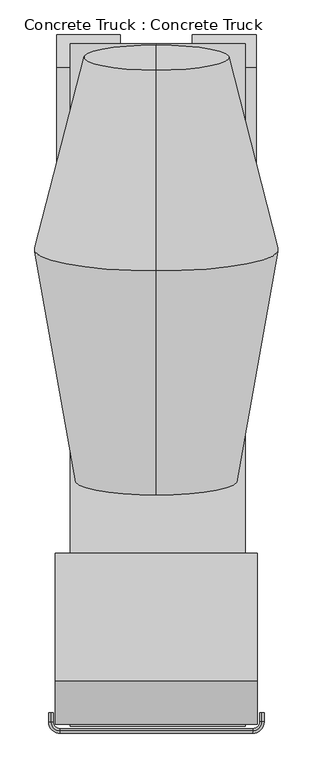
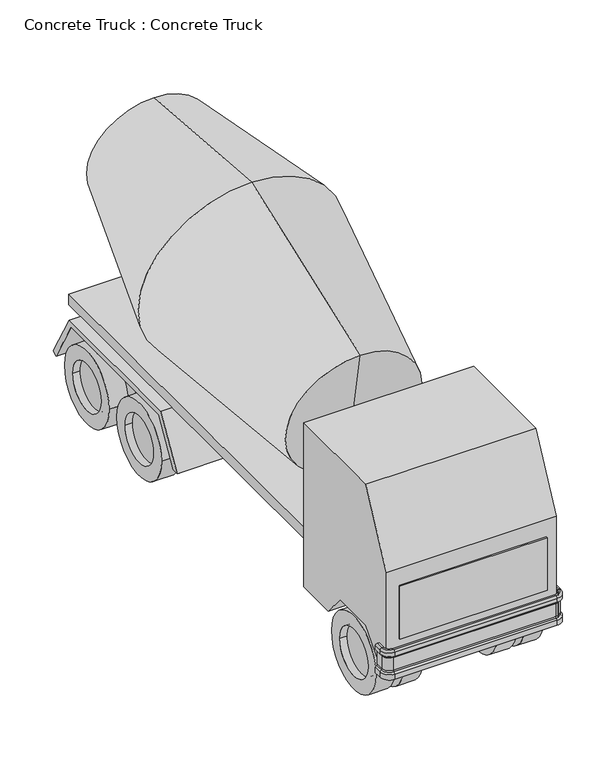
"""IFC4 building model written with IfcOpenShell, lengths in millimetres: geographic element geometry, Concrete Truck : Concrete Truck."""

from ifc_helpers import new_model, si_unit, point, frame, frame_2d, origin, place, context, project, spatial, polyline, circle_curve, ellipse_curve, trimmed, segment, composite_curve, outline, extrude, source, transform, mapped, element, save
from ifc_brep_helpers import plane_surface, cylinder_surface, revolved_surface, advanced_brep


def concrete_truck_concrete_truck_86626955(model_context):
    return source(origin(), model_context, "Body", "SolidModel", [
        extrude(outline(composite_curve([segment(trimmed(circle_curve(frame_2d((-3129.2190592, 514.3449875)), 330.2), [point((-2799.0190592, 514.3449875))], [point((-3459.4190592, 514.3449875))], False, "CARTESIAN"), True, "CONTINUOUS"), segment(trimmed(circle_curve(frame_2d((-3129.2190592, 514.3449875)), 330.2), [point((-3459.4190592, 514.3449875))], [point((-2799.0190592, 514.3449875))], False, "CARTESIAN"), True, "CONTINUOUS")], self_intersect=False)), frame((829.1634615, 0.0, 0.0), z_axis=(1.0, 0.0, 0.0), x_axis=(0.0, 1.0, 0.0)), (0.0, 0.0, 1.0), 172.4421875),
        extrude(outline(composite_curve([segment(trimmed(circle_curve(frame_2d((1874.5809408, 514.3449875)), 330.2), [point((2204.7809408, 514.3449875))], [point((1544.3809408, 514.3449875))], False, "CARTESIAN"), True, "CONTINUOUS"), segment(trimmed(circle_curve(frame_2d((1874.5809408, 514.3449875)), 330.2), [point((1544.3809408, 514.3449875))], [point((2204.7809408, 514.3449875))], False, "CARTESIAN"), True, "CONTINUOUS")], self_intersect=False)), frame((829.1634615, 0.0, 0.0), z_axis=(1.0, 0.0, 0.0), x_axis=(0.0, 1.0, 0.0)), (0.0, 0.0, 1.0), 172.4421875),
        extrude(outline(composite_curve([segment(trimmed(circle_curve(frame_2d((3091.9615385, 514.35)), 330.2), [point((3422.1615385, 514.35))], [point((2761.7615385, 514.35))], False, "CARTESIAN"), True, "CONTINUOUS"), segment(trimmed(circle_curve(frame_2d((3091.9615385, 514.35)), 330.2), [point((2761.7615385, 514.35))], [point((3422.1615385, 514.35))], False, "CARTESIAN"), True, "CONTINUOUS")], self_intersect=False)), frame((829.1634615, 0.0, 0.0), z_axis=(1.0, 0.0, 0.0), x_axis=(0.0, 1.0, 0.0)), (0.0, 0.0, 1.0), 172.4421875),
        extrude(outline(composite_curve([segment(trimmed(circle_curve(frame_2d((-3131.0384615, 514.35)), 330.2), [point((-2800.8384615, 514.35))], [point((-3461.2384615, 514.35))], False, "CARTESIAN"), True, "CONTINUOUS"), segment(trimmed(circle_curve(frame_2d((-3131.0384615, 514.35)), 330.2), [point((-3461.2384615, 514.35))], [point((-2800.8384615, 514.35))], False, "CARTESIAN"), True, "CONTINUOUS")], self_intersect=False)), frame((-1072.859976, 0.0, 0.0), z_axis=(1.0, 0.0, 0.0), x_axis=(0.0, 1.0, 0.0)), (0.0, 0.0, 1.0), 155.7734375),
        extrude(outline(composite_curve([segment(trimmed(circle_curve(frame_2d((1872.7615385, 514.35)), 330.2), [point((2202.9615385, 514.35))], [point((1542.5615385, 514.35))], False, "CARTESIAN"), True, "CONTINUOUS"), segment(trimmed(circle_curve(frame_2d((1872.7615385, 514.35)), 330.2), [point((1542.5615385, 514.35))], [point((2202.9615385, 514.35))], False, "CARTESIAN"), True, "CONTINUOUS")], self_intersect=False)), frame((-1072.859976, 0.0, 0.0), z_axis=(1.0, 0.0, 0.0), x_axis=(0.0, 1.0, 0.0)), (0.0, 0.0, 1.0), 155.7734375),
        extrude(outline(composite_curve([segment(trimmed(circle_curve(frame_2d((3091.9615385, 514.35)), 330.2), [point((3422.1615385, 514.35))], [point((2761.7615385, 514.35))], False, "CARTESIAN"), True, "CONTINUOUS"), segment(trimmed(circle_curve(frame_2d((3091.9615385, 514.35)), 330.2), [point((2761.7615385, 514.35))], [point((3422.1615385, 514.35))], False, "CARTESIAN"), True, "CONTINUOUS")], self_intersect=False)), frame((-1072.859976, 0.0, 0.0), z_axis=(1.0, 0.0, 0.0), x_axis=(0.0, 1.0, 0.0)), (0.0, 0.0, 1.0), 155.7734375),
        extrude(outline(composite_curve([segment(trimmed(circle_curve(frame_2d((3091.9615385, 514.35)), 520.7), [point((3612.6615385, 514.35))], [point((2571.2615385, 514.35))], False, "CARTESIAN"), True, "CONTINUOUS"), segment(trimmed(circle_curve(frame_2d((3091.9615385, 514.35)), 520.7), [point((2571.2615385, 514.35))], [point((3612.6615385, 514.35))], False, "CARTESIAN"), True, "CONTINUOUS")], self_intersect=False)), frame((-805.9615385, 0.0, 0.0), z_axis=(1.0, 0.0, 0.0), x_axis=(0.0, 1.0, 0.0)), (0.0, 0.0, 1.0), 254.0),
        extrude(outline(composite_curve([segment(trimmed(circle_curve(frame_2d((-3139.2915601, 511.4267776)), 520.7), [point((-2618.5915601, 511.4267776))], [point((-3659.9915601, 511.4267776))], False, "CARTESIAN"), True, "CONTINUOUS"), segment(trimmed(circle_curve(frame_2d((-3139.2915601, 511.4267776)), 520.7), [point((-3659.9915601, 511.4267776))], [point((-2618.5915601, 511.4267776))], False, "CARTESIAN"), True, "CONTINUOUS")], self_intersect=False)), frame((-805.9615385, 0.0, 0.0), z_axis=(1.0, 0.0, 0.0), x_axis=(0.0, 1.0, 0.0)), (0.0, 0.0, 1.0), 254.0),
        extrude(outline(composite_curve([segment(trimmed(circle_curve(frame_2d((1872.7615385, 514.35)), 520.7), [point((2393.4615385, 514.35))], [point((1352.0615385, 514.35))], False, "CARTESIAN"), True, "CONTINUOUS"), segment(trimmed(circle_curve(frame_2d((1872.7615385, 514.35)), 520.7), [point((1352.0615385, 514.35))], [point((2393.4615385, 514.35))], False, "CARTESIAN"), True, "CONTINUOUS")], self_intersect=False)), frame((-805.9615385, 0.0, 0.0), z_axis=(1.0, 0.0, 0.0), x_axis=(0.0, 1.0, 0.0)), (0.0, 0.0, 1.0), 254.0),
        extrude(outline(composite_curve([segment(trimmed(circle_curve(frame_2d((3091.9615385, 514.35)), 520.7), [point((3612.6615385, 514.35))], [point((2571.2615385, 514.35))], False, "CARTESIAN"), True, "CONTINUOUS"), segment(trimmed(circle_curve(frame_2d((3091.9615385, 514.35)), 520.7), [point((2571.2615385, 514.35))], [point((3612.6615385, 514.35))], False, "CARTESIAN"), True, "CONTINUOUS")], self_intersect=False)), frame((464.0384615, 0.0, 0.0), z_axis=(1.0, 0.0, 0.0), x_axis=(0.0, 1.0, 0.0)), (0.0, 0.0, 1.0), 254.0),
        extrude(outline(composite_curve([segment(trimmed(circle_curve(frame_2d((-3131.0384615, 514.35)), 520.7), [point((-2610.3384615, 514.35))], [point((-3651.7384615, 514.35))], False, "CARTESIAN"), True, "CONTINUOUS"), segment(trimmed(circle_curve(frame_2d((-3131.0384615, 514.35)), 520.7), [point((-3651.7384615, 514.35))], [point((-2610.3384615, 514.35))], False, "CARTESIAN"), True, "CONTINUOUS")], self_intersect=False)), frame((464.0384615, 0.0, 0.0), z_axis=(1.0, 0.0, 0.0), x_axis=(0.0, 1.0, 0.0)), (0.0, 0.0, 1.0), 254.0),
        extrude(outline(composite_curve([segment(trimmed(circle_curve(frame_2d((1872.7615385, 514.35)), 520.7), [point((2393.4615385, 514.35))], [point((1352.0615385, 514.35))], False, "CARTESIAN"), True, "CONTINUOUS"), segment(trimmed(circle_curve(frame_2d((1872.7615385, 514.35)), 520.7), [point((1352.0615385, 514.35))], [point((2393.4615385, 514.35))], False, "CARTESIAN"), True, "CONTINUOUS")], self_intersect=False)), frame((464.0384615, 0.0, 0.0), z_axis=(1.0, 0.0, 0.0), x_axis=(0.0, 1.0, 0.0)), (0.0, 0.0, 1.0), 254.0),
        extrude(outline(composite_curve([segment(trimmed(circle_curve(frame_2d((3091.9615385, 514.35)), 520.7), [point((3612.6615385, 514.35))], [point((2571.2615385, 514.35))], False, "CARTESIAN"), True, "CONTINUOUS"), segment(trimmed(circle_curve(frame_2d((3091.9615385, 514.35)), 520.7), [point((2571.2615385, 514.35))], [point((3612.6615385, 514.35))], False, "CARTESIAN"), True, "CONTINUOUS")], self_intersect=False), holes=[composite_curve([segment(trimmed(circle_curve(frame_2d((3091.9615385, 514.35)), 330.2), [point((3422.1615385, 514.35))], [point((2761.7615385, 514.35))], True, "CARTESIAN"), True, "CONTINUOUS"), segment(trimmed(circle_curve(frame_2d((3091.9615385, 514.35)), 330.2), [point((2761.7615385, 514.35))], [point((3422.1615385, 514.35))], True, "CARTESIAN"), True, "CONTINUOUS")], self_intersect=False)]), frame((-1171.0865385, 0.0, 0.0), z_axis=(1.0, 0.0, 0.0), x_axis=(0.0, 1.0, 0.0)), (0.0, 0.0, 1.0), 254.0),
        extrude(outline(composite_curve([segment(trimmed(circle_curve(frame_2d((-3131.0384615, 514.35)), 520.7), [point((-2610.3384615, 514.35))], [point((-3651.7384615, 514.35))], False, "CARTESIAN"), True, "CONTINUOUS"), segment(trimmed(circle_curve(frame_2d((-3131.0384615, 514.35)), 520.7), [point((-3651.7384615, 514.35))], [point((-2610.3384615, 514.35))], False, "CARTESIAN"), True, "CONTINUOUS")], self_intersect=False), holes=[composite_curve([segment(trimmed(circle_curve(frame_2d((-3131.0384615, 514.35)), 330.2), [point((-2800.8384615, 514.35))], [point((-3461.2384615, 514.35))], True, "CARTESIAN"), True, "CONTINUOUS"), segment(trimmed(circle_curve(frame_2d((-3131.0384615, 514.35)), 330.2), [point((-3461.2384615, 514.35))], [point((-2800.8384615, 514.35))], True, "CARTESIAN"), True, "CONTINUOUS")], self_intersect=False)]), frame((-1171.0865385, 0.0, 0.0), z_axis=(1.0, 0.0, 0.0), x_axis=(0.0, 1.0, 0.0)), (0.0, 0.0, 1.0), 254.0),
        extrude(outline(composite_curve([segment(trimmed(circle_curve(frame_2d((1872.7615385, 514.35)), 520.7), [point((2393.4615385, 514.35))], [point((1352.0615385, 514.35))], False, "CARTESIAN"), True, "CONTINUOUS"), segment(trimmed(circle_curve(frame_2d((1872.7615385, 514.35)), 520.7), [point((1352.0615385, 514.35))], [point((2393.4615385, 514.35))], False, "CARTESIAN"), True, "CONTINUOUS")], self_intersect=False), holes=[composite_curve([segment(trimmed(circle_curve(frame_2d((1872.7615385, 514.35)), 330.2), [point((2202.9615385, 514.35))], [point((1542.5615385, 514.35))], True, "CARTESIAN"), True, "CONTINUOUS"), segment(trimmed(circle_curve(frame_2d((1872.7615385, 514.35)), 330.2), [point((1542.5615385, 514.35))], [point((2202.9615385, 514.35))], True, "CARTESIAN"), True, "CONTINUOUS")], self_intersect=False)]), frame((-1171.0865385, 0.0, 0.0), z_axis=(1.0, 0.0, 0.0), x_axis=(0.0, 1.0, 0.0)), (0.0, 0.0, 1.0), 254.0),
        advanced_brep(
        [(-1212.3615385, -3791.4384615, 661.0144121), (-1263.1615385, -3791.4384615, 661.0144121), (-1263.1615385, -3791.4384615, 734.1328754), (-1243.6602579, -3791.4384615, 753.634156), (-1236.2207701, -3791.4384615, 771.5946682), (-1236.2207701, -3791.4384615, 953.7526192), (-1243.6602579, -3791.4384615, 971.7131315), (-1263.1615385, -3791.4384615, 991.2144121), (-1263.1615385, -3791.4384615, 1042.0144121), (-1237.7615385, -3791.4384615, 1067.4144121), (-1212.3615385, -3791.4384615, 1067.4144121), (-1212.3615385, -3893.0384615, 661.0144121), (-1263.1615385, -3893.0384615, 661.0144121), (-1263.1615385, -3893.0384615, 734.1328754), (-1243.6602579, -3893.0384615, 753.634156), (-1236.2207701, -3893.0384615, 771.5946682), (-1236.2207701, -3893.0384615, 953.7526192), (-1243.6602579, -3893.0384615, 971.7131315), (-1263.1615385, -3893.0384615, 991.2144121), (-1263.1615385, -3893.0384615, 1042.0144121), (-1237.7615385, -3893.0384615, 1067.4144121), (-1212.3615385, -3893.0384615, 1067.4144121), (-1136.1615385, -4020.0384615, 661.0144121), (-1136.1615385, -3969.2384615, 661.0144121), (-1136.1615385, -4020.0384615, 734.1328754), (-1136.1615385, -4000.5371809, 753.634156), (-1136.1615385, -3993.0976932, 771.5946682), (-1136.1615385, -3993.0976932, 953.7526192), (-1136.1615385, -4000.5371809, 971.7131315), (-1136.1615385, -4020.0384615, 991.2144121), (-1136.1615385, -4020.0384615, 1042.0144121), (-1136.1615385, -3994.6384615, 1067.4144121), (-1136.1615385, -3969.2384615, 1067.4144121), (1048.2384615, -3969.2384615, 661.0144121), (1048.2384615, -4020.0384615, 661.0144121), (1048.2384615, -4020.0384615, 734.1328754), (1048.2384615, -4000.5371809, 753.634156), (1048.2384615, -3993.0976932, 771.5946682), (1048.2384615, -3993.0976932, 953.7526192), (1048.2384615, -4000.5371809, 971.7131315), (1048.2384615, -4020.0384615, 991.2144121), (1048.2384615, -4020.0384615, 1042.0144121), (1048.2384615, -3994.6384615, 1067.4144121), (1048.2384615, -3969.2384615, 1067.4144121), (1175.2384615, -3893.0384615, 661.0144121), (1124.4384615, -3893.0384615, 661.0144121), (1175.2384615, -3893.0384615, 734.1328754), (1155.7371809, -3893.0384615, 753.634156), (1148.2976932, -3893.0384615, 771.5946682), (1148.2976932, -3893.0384615, 953.7526192), (1155.7371809, -3893.0384615, 971.7131315), (1175.2384615, -3893.0384615, 991.2144121), (1175.2384615, -3893.0384615, 1042.0144121), (1149.8384615, -3893.0384615, 1067.4144121), (1124.4384615, -3893.0384615, 1067.4144121), (1124.4384615, -3791.4384615, 661.0144121), (1124.4384615, -3791.4384615, 1067.4144121), (1149.8384615, -3791.4384615, 1067.4144121), (1175.2384615, -3791.4384615, 1042.0144121), (1175.2384615, -3791.4384615, 991.2144121), (1155.7371809, -3791.4384615, 971.7131315), (1148.2976932, -3791.4384615, 953.7526192), (1148.2976932, -3791.4384615, 771.5946682), (1155.7371809, -3791.4384615, 753.634156), (1175.2384615, -3791.4384615, 734.1328754), (1175.2384615, -3791.4384615, 661.0144121)],
        [
            (0, 1),
            (1, 2),
            (2, 3),
            (3, 4, circle_curve(frame((-1261.6207701, -3791.4384615, 771.5946682), z_axis=(0.0, -1.0, 0.0), x_axis=(1.0, 0.0, 0.0)), 25.4)),
            (4, 5),
            (5, 6, circle_curve(frame((-1261.6207701, -3791.4384615, 953.7526192), z_axis=(0.0, -1.0, 0.0), x_axis=(1.0, 0.0, 0.0)), 25.4)),
            (6, 7),
            (7, 8),
            (8, 9, circle_curve(frame((-1237.7615385, -3791.4384615, 1042.0144121), z_axis=(0.0, 1.0, 0.0), x_axis=(1.0, 0.0, 0.0)), 25.4)),
            (9, 10),
            (10, 0),
            (0, 11),
            (11, 12),
            (12, 1),
            (12, 13),
            (13, 2),
            (13, 14),
            (14, 3),
            (14, 15, circle_curve(frame((-1261.6207701, -3893.0384615, 771.5946682), z_axis=(0.0, -1.0, 0.0), x_axis=(1.0, 0.0, 0.0)), 25.4)),
            (15, 4),
            (15, 16),
            (16, 5),
            (16, 17, circle_curve(frame((-1261.6207701, -3893.0384615, 953.7526192), z_axis=(0.0, -1.0, 0.0), x_axis=(1.0, 0.0, 0.0)), 25.4)),
            (17, 6),
            (17, 18),
            (18, 7),
            (18, 19),
            (19, 8),
            (19, 20, circle_curve(frame((-1237.7615385, -3893.0384615, 1042.0144121), z_axis=(0.0, 1.0, 0.0), x_axis=(1.0, 0.0, 0.0)), 25.4)),
            (20, 9),
            (20, 21),
            (21, 10),
            (21, 11),
            (22, 12, circle_curve(frame((-1136.1615385, -3893.0384615, 661.0144121), z_axis=(0.0, 0.0, -1.0), x_axis=(-1.0, 0.0, 0.0)), 127.0)),
            (11, 23, circle_curve(frame((-1136.1615385, -3893.0384615, 661.0144121), z_axis=(0.0, 0.0, 1.0), x_axis=(-1.0, 0.0, 0.0)), 76.2)),
            (23, 22),
            (24, 13, circle_curve(frame((-1136.1615385, -3893.0384615, 734.1328754), z_axis=(0.0, 0.0, -1.0), x_axis=(-1.0, 0.0, 0.0)), 127.0)),
            (22, 24),
            (25, 14, circle_curve(frame((-1136.1615385, -3893.0384615, 753.634156), z_axis=(0.0, 0.0, -1.0), x_axis=(-1.0, 0.0, 0.0)), 107.4987194)),
            (24, 25),
            (26, 15, circle_curve(frame((-1136.1615385, -3893.0384615, 771.5946682), z_axis=(0.0, 0.0, -1.0), x_axis=(-1.0, 0.0, 0.0)), 100.0592316)),
            (25, 26, circle_curve(frame((-1136.1615385, -4018.4976932, 771.5946682), z_axis=(1.0, 0.0, 0.0), x_axis=(0.0, 1.0, 0.0)), 25.4)),
            (27, 16, circle_curve(frame((-1136.1615385, -3893.0384615, 953.7526192), z_axis=(0.0, 0.0, -1.0), x_axis=(-1.0, 0.0, 0.0)), 100.0592316)),
            (26, 27),
            (28, 17, circle_curve(frame((-1136.1615385, -3893.0384615, 971.7131315), z_axis=(0.0, 0.0, -1.0), x_axis=(-1.0, 0.0, 0.0)), 107.4987194)),
            (27, 28, circle_curve(frame((-1136.1615385, -4018.4976932, 953.7526192), z_axis=(1.0, 0.0, 0.0), x_axis=(0.0, 1.0, 0.0)), 25.4)),
            (29, 18, circle_curve(frame((-1136.1615385, -3893.0384615, 991.2144121), z_axis=(0.0, 0.0, -1.0), x_axis=(-1.0, 0.0, 0.0)), 127.0)),
            (28, 29),
            (30, 19, circle_curve(frame((-1136.1615385, -3893.0384615, 1042.0144121), z_axis=(0.0, 0.0, -1.0), x_axis=(-1.0, 0.0, 0.0)), 127.0)),
            (29, 30),
            (31, 20, circle_curve(frame((-1136.1615385, -3893.0384615, 1067.4144121), z_axis=(0.0, 0.0, -1.0), x_axis=(-1.0, 0.0, 0.0)), 101.6)),
            (30, 31, circle_curve(frame((-1136.1615385, -3994.6384615, 1042.0144121), z_axis=(-1.0, 0.0, 0.0), x_axis=(0.0, 1.0, 0.0)), 25.4)),
            (32, 21, circle_curve(frame((-1136.1615385, -3893.0384615, 1067.4144121), z_axis=(0.0, 0.0, -1.0), x_axis=(-1.0, 0.0, 0.0)), 76.2)),
            (31, 32),
            (32, 23),
            (23, 33),
            (33, 34),
            (34, 22),
            (34, 35),
            (35, 24),
            (35, 36),
            (36, 25),
            (36, 37, circle_curve(frame((1048.2384615, -4018.4976932, 771.5946682), z_axis=(1.0, 0.0, 0.0), x_axis=(0.0, 1.0, 0.0)), 25.4)),
            (37, 26),
            (37, 38),
            (38, 27),
            (38, 39, circle_curve(frame((1048.2384615, -4018.4976932, 953.7526192), z_axis=(1.0, 0.0, 0.0), x_axis=(0.0, 1.0, 0.0)), 25.4)),
            (39, 28),
            (39, 40),
            (40, 29),
            (40, 41),
            (41, 30),
            (41, 42, circle_curve(frame((1048.2384615, -3994.6384615, 1042.0144121), z_axis=(-1.0, 0.0, 0.0), x_axis=(0.0, 1.0, 0.0)), 25.4)),
            (42, 31),
            (42, 43),
            (43, 32),
            (43, 33),
            (44, 34, circle_curve(frame((1048.2384615, -3893.0384615, 661.0144121), z_axis=(0.0, 0.0, -1.0), x_axis=(0.0, -1.0, 0.0)), 127.0)),
            (33, 45, circle_curve(frame((1048.2384615, -3893.0384615, 661.0144121), z_axis=(0.0, 0.0, 1.0), x_axis=(0.0, -1.0, 0.0)), 76.2)),
            (45, 44),
            (46, 35, circle_curve(frame((1048.2384615, -3893.0384615, 734.1328754), z_axis=(0.0, 0.0, -1.0), x_axis=(0.0, -1.0, 0.0)), 127.0)),
            (44, 46),
            (47, 36, circle_curve(frame((1048.2384615, -3893.0384615, 753.634156), z_axis=(0.0, 0.0, -1.0), x_axis=(0.0, -1.0, 0.0)), 107.4987194)),
            (46, 47),
            (48, 37, circle_curve(frame((1048.2384615, -3893.0384615, 771.5946682), z_axis=(0.0, 0.0, -1.0), x_axis=(0.0, -1.0, 0.0)), 100.0592316)),
            (47, 48, circle_curve(frame((1173.6976932, -3893.0384615, 771.5946682), z_axis=(0.0, 1.0, 0.0), x_axis=(-1.0, 0.0, 0.0)), 25.4)),
            (49, 38, circle_curve(frame((1048.2384615, -3893.0384615, 953.7526192), z_axis=(0.0, 0.0, -1.0), x_axis=(0.0, -1.0, 0.0)), 100.0592316)),
            (48, 49),
            (50, 39, circle_curve(frame((1048.2384615, -3893.0384615, 971.7131315), z_axis=(0.0, 0.0, -1.0), x_axis=(0.0, -1.0, 0.0)), 107.4987194)),
            (49, 50, circle_curve(frame((1173.6976932, -3893.0384615, 953.7526192), z_axis=(0.0, 1.0, 0.0), x_axis=(-1.0, 0.0, 0.0)), 25.4)),
            (51, 40, circle_curve(frame((1048.2384615, -3893.0384615, 991.2144121), z_axis=(0.0, 0.0, -1.0), x_axis=(0.0, -1.0, 0.0)), 127.0)),
            (50, 51),
            (52, 41, circle_curve(frame((1048.2384615, -3893.0384615, 1042.0144121), z_axis=(0.0, 0.0, -1.0), x_axis=(0.0, -1.0, 0.0)), 127.0)),
            (51, 52),
            (53, 42, circle_curve(frame((1048.2384615, -3893.0384615, 1067.4144121), z_axis=(0.0, 0.0, -1.0), x_axis=(0.0, -1.0, 0.0)), 101.6)),
            (52, 53, circle_curve(frame((1149.8384615, -3893.0384615, 1042.0144121), z_axis=(0.0, -1.0, 0.0), x_axis=(-1.0, 0.0, 0.0)), 25.4)),
            (54, 43, circle_curve(frame((1048.2384615, -3893.0384615, 1067.4144121), z_axis=(0.0, 0.0, -1.0), x_axis=(0.0, -1.0, 0.0)), 76.2)),
            (53, 54),
            (54, 45),
            (55, 56),
            (56, 57),
            (57, 58, circle_curve(frame((1149.8384615, -3791.4384615, 1042.0144121), z_axis=(0.0, 1.0, 0.0), x_axis=(-1.0, 0.0, 0.0)), 25.4)),
            (58, 59),
            (59, 60),
            (60, 61, circle_curve(frame((1173.6976932, -3791.4384615, 953.7526192), z_axis=(0.0, -1.0, 0.0), x_axis=(-1.0, 0.0, 0.0)), 25.4)),
            (61, 62),
            (62, 63, circle_curve(frame((1173.6976932, -3791.4384615, 771.5946682), z_axis=(0.0, -1.0, 0.0), x_axis=(-1.0, 0.0, 0.0)), 25.4)),
            (63, 64),
            (64, 65),
            (65, 55),
            (45, 55),
            (65, 44),
            (64, 46),
            (63, 47),
            (62, 48),
            (61, 49),
            (60, 50),
            (59, 51),
            (58, 52),
            (57, 53),
            (56, 54),
        ],
        [
            plane_surface(frame((-2331.7840944, -3791.4384615, 0.0), z_axis=(0.0, 1.0, 0.0), x_axis=(0.0, 0.0, -1.0))),
            plane_surface(frame((-1212.3615385, -3791.4384615, 661.0144121), z_axis=(0.0, 0.0, -1.0), x_axis=(0.0, -1.0, 0.0))),
            plane_surface(frame((-1263.1615385, -3791.4384615, 661.0144121), z_axis=(-1.0, 0.0, 0.0), x_axis=(0.0, -1.0, 0.0))),
            plane_surface(frame((-1263.1615385, -3791.4384615, 734.1328754), z_axis=(-0.7071067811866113, 0.0, 0.7071067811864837), x_axis=(0.0, -1.0, 0.0))),
            revolved_surface(polyline([(-1236.2207701, -3893.0384615, 771.5946682), (-1236.2207701, -3791.4384615, 771.5946682)]), (-1261.6207701, -3791.4384615, 771.5946682), (0.0, -1.0, 0.0)),
            plane_surface(frame((-1236.2207701, -3791.4384615, 771.5946682), z_axis=(-1.0, 0.0, 0.0), x_axis=(0.0, -1.0, 0.0))),
            revolved_surface(polyline([(-1236.2207701, -3893.0384615, 953.7526192), (-1236.2207701, -3791.4384615, 953.7526192)]), (-1261.6207701, -3791.4384615, 953.7526192), (0.0, -1.0, 0.0)),
            plane_surface(frame((-1243.6602579, -3791.4384615, 971.7131315), z_axis=(-0.7071067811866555, 0.0, -0.7071067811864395), x_axis=(0.0, -1.0, 0.0))),
            plane_surface(frame((-1263.1615385, -3791.4384615, 991.2144121), z_axis=(-1.0, 0.0, 0.0), x_axis=(0.0, -1.0, 0.0))),
            cylinder_surface(frame((-1237.7615385, -3791.4384615, 1042.0144121), z_axis=(0.0, 1.0, 0.0), x_axis=(1.0, 0.0, 0.0)), 25.4),
            plane_surface(frame((-1237.7615385, -3791.4384615, 1067.4144121), z_axis=(0.0, 0.0, 1.0), x_axis=(0.0, -1.0, 0.0))),
            plane_surface(frame((-1212.3615385, -3791.4384615, 1067.4144121), z_axis=(1.0, 0.0, 0.0), x_axis=(0.0, -1.0, 0.0))),
            plane_surface(frame((-1136.1615385, -3893.0384615, 661.0144121), z_axis=(0.0, 0.0, -1.0), x_axis=(-1.0, 0.0, 0.0))),
            cylinder_surface(frame((-1136.1615385, -3893.0384615, 0.0), z_axis=(0.0, 0.0, 1.0), x_axis=(-1.0, 0.0, 0.0)), 127.0),
            revolved_surface(polyline([(-1263.1615385, -3893.0384615, 734.1328754), (-1243.6602579, -3893.0384615, 753.634156)]), (-1136.1615385, -3893.0384615, 0.0), (0.0, 0.0, 1.0)),
            revolved_surface(trimmed(ellipse_curve(frame((-1261.6207701, -3893.0384615, 771.5946682), z_axis=(0.0, -1.0, 0.0), x_axis=(1.0, 0.0, 0.0)), 25.4, 25.4), [point((-1243.6602579, -3893.0384615, 753.634156))], [point((-1236.2207701, -3893.0384615, 771.5946682))], True, "CARTESIAN"), (-1136.1615385, -3893.0384615, 0.0), (0.0, 0.0, 1.0)),
            cylinder_surface(frame((-1136.1615385, -3893.0384615, 0.0), z_axis=(0.0, 0.0, 1.0), x_axis=(-1.0, 0.0, 0.0)), 100.0592316),
            revolved_surface(trimmed(ellipse_curve(frame((-1261.6207701, -3893.0384615, 953.7526192), z_axis=(0.0, -1.0, 0.0), x_axis=(1.0, 0.0, 0.0)), 25.4, 25.4), [point((-1236.2207701, -3893.0384615, 953.7526192))], [point((-1243.6602579, -3893.0384615, 971.7131315))], True, "CARTESIAN"), (-1136.1615385, -3893.0384615, 0.0), (0.0, 0.0, 1.0)),
            revolved_surface(polyline([(-1243.6602579, -3893.0384615, 971.7131315), (-1263.1615385, -3893.0384615, 991.2144121)]), (-1136.1615385, -3893.0384615, 0.0), (0.0, 0.0, 1.0)),
            revolved_surface(trimmed(ellipse_curve(frame((-1237.7615385, -3893.0384615, 1042.0144121), z_axis=(0.0, 1.0, 0.0), x_axis=(1.0, 0.0, 0.0)), 25.4, 25.4), [point((-1263.1615385, -3893.0384615, 1042.0144121))], [point((-1237.7615385, -3893.0384615, 1067.4144121))], True, "CARTESIAN"), (-1136.1615385, -3893.0384615, 0.0), (0.0, 0.0, 1.0)),
            plane_surface(frame((-1136.1615385, -3893.0384615, 1067.4144121), z_axis=(0.0, 0.0, 1.0), x_axis=(-1.0, 0.0, 0.0))),
            revolved_surface(polyline([(-1212.3615385, -3893.0384615, 1067.4144121), (-1212.3615385, -3893.0384615, 661.0144121)]), (-1136.1615385, -3893.0384615, 0.0), (0.0, 0.0, 1.0)),
            plane_surface(frame((-1136.1615385, -3969.2384615, 661.0144121), z_axis=(0.0, 0.0, -1.0), x_axis=(1.0, 0.0, 0.0))),
            plane_surface(frame((-1136.1615385, -4020.0384615, 661.0144121), z_axis=(0.0, -1.0, 0.0), x_axis=(1.0, 0.0, 0.0))),
            plane_surface(frame((-1136.1615385, -4020.0384615, 734.1328754), z_axis=(0.0, -0.7071067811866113, 0.7071067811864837), x_axis=(1.0, 0.0, 0.0))),
            revolved_surface(polyline([(1048.2384615, -3993.0976932, 771.5946682), (-1136.1615385, -3993.0976932, 771.5946682)]), (-1136.1615385, -4018.4976932, 771.5946682), (1.0, 0.0, 0.0)),
            plane_surface(frame((-1136.1615385, -3993.0976932, 771.5946682), z_axis=(0.0, -1.0, 0.0), x_axis=(1.0, 0.0, 0.0))),
            revolved_surface(polyline([(1048.2384615, -3993.0976932, 953.7526192), (-1136.1615385, -3993.0976932, 953.7526192)]), (-1136.1615385, -4018.4976932, 953.7526192), (1.0, 0.0, 0.0)),
            plane_surface(frame((-1136.1615385, -4000.5371809, 971.7131315), z_axis=(0.0, -0.7071067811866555, -0.7071067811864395), x_axis=(1.0, 0.0, 0.0))),
            plane_surface(frame((-1136.1615385, -4020.0384615, 991.2144121), z_axis=(0.0, -1.0, 0.0), x_axis=(1.0, 0.0, 0.0))),
            cylinder_surface(frame((-1136.1615385, -3994.6384615, 1042.0144121), z_axis=(-1.0, 0.0, 0.0), x_axis=(0.0, 1.0, 0.0)), 25.4),
            plane_surface(frame((-1136.1615385, -3994.6384615, 1067.4144121), z_axis=(0.0, 0.0, 1.0), x_axis=(1.0, 0.0, 0.0))),
            plane_surface(frame((-1136.1615385, -3969.2384615, 1067.4144121), z_axis=(0.0, 1.0, 0.0), x_axis=(1.0, 0.0, 0.0))),
            plane_surface(frame((1048.2384615, -3893.0384615, 661.0144121), z_axis=(0.0, 0.0, -1.0), x_axis=(0.0, -1.0, 0.0))),
            cylinder_surface(frame((1048.2384615, -3893.0384615, 0.0), z_axis=(0.0, 0.0, 1.0), x_axis=(0.0, -1.0, 0.0)), 127.0),
            revolved_surface(polyline([(1048.2384615, -4020.0384615, 734.1328754), (1048.2384615, -4000.5371809, 753.634156)]), (1048.2384615, -3893.0384615, 0.0), (0.0, 0.0, 1.0)),
            revolved_surface(trimmed(ellipse_curve(frame((1048.2384615, -4018.4976932, 771.5946682), z_axis=(1.0, 0.0, 0.0), x_axis=(0.0, 1.0, 0.0)), 25.4, 25.4), [point((1048.2384615, -4000.5371809, 753.634156))], [point((1048.2384615, -3993.0976932, 771.5946682))], True, "CARTESIAN"), (1048.2384615, -3893.0384615, 0.0), (0.0, 0.0, 1.0)),
            cylinder_surface(frame((1048.2384615, -3893.0384615, 0.0), z_axis=(0.0, 0.0, 1.0), x_axis=(0.0, -1.0, 0.0)), 100.0592316),
            revolved_surface(trimmed(ellipse_curve(frame((1048.2384615, -4018.4976932, 953.7526192), z_axis=(1.0, 0.0, 0.0), x_axis=(0.0, 1.0, 0.0)), 25.4, 25.4), [point((1048.2384615, -3993.0976932, 953.7526192))], [point((1048.2384615, -4000.5371809, 971.7131315))], True, "CARTESIAN"), (1048.2384615, -3893.0384615, 0.0), (0.0, 0.0, 1.0)),
            revolved_surface(polyline([(1048.2384615, -4000.5371809, 971.7131315), (1048.2384615, -4020.0384615, 991.2144121)]), (1048.2384615, -3893.0384615, 0.0), (0.0, 0.0, 1.0)),
            revolved_surface(trimmed(ellipse_curve(frame((1048.2384615, -3994.6384615, 1042.0144121), z_axis=(-1.0, 0.0, 0.0), x_axis=(0.0, 1.0, 0.0)), 25.4, 25.4), [point((1048.2384615, -4020.0384615, 1042.0144121))], [point((1048.2384615, -3994.6384615, 1067.4144121))], True, "CARTESIAN"), (1048.2384615, -3893.0384615, 0.0), (0.0, 0.0, 1.0)),
            plane_surface(frame((1048.2384615, -3893.0384615, 1067.4144121), z_axis=(0.0, 0.0, 1.0), x_axis=(0.0, -1.0, 0.0))),
            revolved_surface(polyline([(1048.2384615, -3969.2384614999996, 1067.4144121), (1048.2384615, -3969.2384614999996, 661.0144121)]), (1048.2384615, -3893.0384615, 0.0), (0.0, 0.0, 1.0)),
            plane_surface(frame((106.6159056, -3791.4384615, 0.0), z_axis=(0.0, 1.0, 0.0), x_axis=(0.0, 0.0, 1.0))),
            plane_surface(frame((1124.4384615, -3893.0384615, 661.0144121), z_axis=(0.0, 0.0, -1.0), x_axis=(0.0, 1.0, 0.0))),
            plane_surface(frame((1175.2384615, -3893.0384615, 661.0144121), z_axis=(1.0, 0.0, 0.0), x_axis=(0.0, 1.0, 0.0))),
            plane_surface(frame((1175.2384615, -3893.0384615, 734.1328754), z_axis=(0.7071067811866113, 0.0, 0.7071067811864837), x_axis=(0.0, 1.0, 0.0))),
            revolved_surface(polyline([(1148.2976932, -3791.4384615, 771.5946682), (1148.2976932, -3893.0384615, 771.5946682)]), (1173.6976932, -3893.0384615, 771.5946682), (0.0, 1.0, 0.0)),
            plane_surface(frame((1148.2976932, -3893.0384615, 771.5946682), z_axis=(1.0, 0.0, 0.0), x_axis=(0.0, 1.0, 0.0))),
            revolved_surface(polyline([(1148.2976932, -3791.4384615, 953.7526192), (1148.2976932, -3893.0384615, 953.7526192)]), (1173.6976932, -3893.0384615, 953.7526192), (0.0, 1.0, 0.0)),
            plane_surface(frame((1155.7371809, -3893.0384615, 971.7131315), z_axis=(0.7071067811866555, 0.0, -0.7071067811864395), x_axis=(0.0, 1.0, 0.0))),
            plane_surface(frame((1175.2384615, -3893.0384615, 991.2144121), z_axis=(1.0, 0.0, 0.0), x_axis=(0.0, 1.0, 0.0))),
            cylinder_surface(frame((1149.8384615, -3893.0384615, 1042.0144121), z_axis=(0.0, -1.0, 0.0), x_axis=(-1.0, 0.0, 0.0)), 25.4),
            plane_surface(frame((1149.8384615, -3893.0384615, 1067.4144121), z_axis=(0.0, 0.0, 1.0), x_axis=(0.0, 1.0, 0.0))),
            plane_surface(frame((1124.4384615, -3893.0384615, 1067.4144121), z_axis=(-1.0, 0.0, 0.0), x_axis=(0.0, 1.0, 0.0))),
        ],
        [
            (0, [[1, 2, 3, 4, 5, 6, 7, 8, 9, 10, 11]]),
            (1, [[-1, 12, 13, 14]]),
            (2, [[-2, -14, 15, 16]]),
            (3, [[-3, -16, 17, 18]]),
            (4, [[-4, -18, 19, 20]]),
            (5, [[-5, -20, 21, 22]]),
            (6, [[-6, -22, 23, 24]]),
            (7, [[-7, -24, 25, 26]]),
            (8, [[-8, -26, 27, 28]]),
            (9, [[-9, -28, 29, 30]]),
            (10, [[-10, -30, 31, 32]]),
            (11, [[-11, -32, 33, -12]]),
            (12, [[34, -13, 35, 36]]),
            (13, [[37, -15, -34, 38]]),
            (14, [[39, -17, -37, 40]]),
            (15, [[41, -19, -39, 42]]),
            (16, [[43, -21, -41, 44]]),
            (17, [[45, -23, -43, 46]]),
            (18, [[47, -25, -45, 48]]),
            (13, [[49, -27, -47, 50]]),
            (19, [[51, -29, -49, 52]]),
            (20, [[53, -31, -51, 54]]),
            (21, [[-35, -33, -53, 55]]),
            (22, [[-36, 56, 57, 58]]),
            (23, [[-38, -58, 59, 60]]),
            (24, [[-40, -60, 61, 62]]),
            (25, [[-42, -62, 63, 64]]),
            (26, [[-44, -64, 65, 66]]),
            (27, [[-46, -66, 67, 68]]),
            (28, [[-48, -68, 69, 70]]),
            (29, [[-50, -70, 71, 72]]),
            (30, [[-52, -72, 73, 74]]),
            (31, [[-54, -74, 75, 76]]),
            (32, [[-55, -76, 77, -56]]),
            (33, [[78, -57, 79, 80]]),
            (34, [[81, -59, -78, 82]]),
            (35, [[83, -61, -81, 84]]),
            (36, [[85, -63, -83, 86]]),
            (37, [[87, -65, -85, 88]]),
            (38, [[89, -67, -87, 90]]),
            (39, [[91, -69, -89, 92]]),
            (34, [[93, -71, -91, 94]]),
            (40, [[95, -73, -93, 96]]),
            (41, [[97, -75, -95, 98]]),
            (42, [[-79, -77, -97, 99]]),
            (43, [[100, 101, 102, 103, 104, 105, 106, 107, 108, 109, 110]]),
            (44, [[-80, 111, -110, 112]]),
            (45, [[-82, -112, -109, 113]]),
            (46, [[-84, -113, -108, 114]]),
            (47, [[-86, -114, -107, 115]]),
            (48, [[-88, -115, -106, 116]]),
            (49, [[-90, -116, -105, 117]]),
            (50, [[-92, -117, -104, 118]]),
            (51, [[-94, -118, -103, 119]]),
            (52, [[-96, -119, -102, 120]]),
            (53, [[-98, -120, -101, 121]]),
            (54, [[-99, -121, -100, -111]]),
        ],
    ),
        extrude(outline(composite_curve([segment(trimmed(circle_curve(frame_2d((3091.9615385, 514.35)), 520.7), [point((3612.6615385, 514.35))], [point((2571.2615385, 514.35))], False, "CARTESIAN"), True, "CONTINUOUS"), segment(trimmed(circle_curve(frame_2d((3091.9615385, 514.35)), 520.7), [point((2571.2615385, 514.35))], [point((3612.6615385, 514.35))], False, "CARTESIAN"), True, "CONTINUOUS")], self_intersect=False), holes=[composite_curve([segment(trimmed(circle_curve(frame_2d((3091.9615385, 514.35)), 330.2), [point((3422.1615385, 514.35))], [point((2761.7615385, 514.35))], True, "CARTESIAN"), True, "CONTINUOUS"), segment(trimmed(circle_curve(frame_2d((3091.9615385, 514.35)), 330.2), [point((2761.7615385, 514.35))], [point((3422.1615385, 514.35))], True, "CARTESIAN"), True, "CONTINUOUS")], self_intersect=False)]), frame((829.1634615, 0.0, 0.0), z_axis=(1.0, 0.0, 0.0), x_axis=(0.0, 1.0, 0.0)), (0.0, 0.0, 1.0), 254.0),
        extrude(outline(composite_curve([segment(trimmed(circle_curve(frame_2d((-3131.0384615, 514.35)), 520.7), [point((-2610.3384615, 514.35))], [point((-3651.7384615, 514.35))], False, "CARTESIAN"), True, "CONTINUOUS"), segment(trimmed(circle_curve(frame_2d((-3131.0384615, 514.35)), 520.7), [point((-3651.7384615, 514.35))], [point((-2610.3384615, 514.35))], False, "CARTESIAN"), True, "CONTINUOUS")], self_intersect=False), holes=[composite_curve([segment(trimmed(circle_curve(frame_2d((-3131.0384615, 514.35)), 330.2), [point((-2800.8384615, 514.35))], [point((-3461.2384615, 514.35))], True, "CARTESIAN"), True, "CONTINUOUS"), segment(trimmed(circle_curve(frame_2d((-3131.0384615, 514.35)), 330.2), [point((-3461.2384615, 514.35))], [point((-2800.8384615, 514.35))], True, "CARTESIAN"), True, "CONTINUOUS")], self_intersect=False)]), frame((829.1634615, 0.0, 0.0), z_axis=(1.0, 0.0, 0.0), x_axis=(0.0, 1.0, 0.0)), (0.0, 0.0, 1.0), 254.0),
        extrude(outline(composite_curve([segment(trimmed(circle_curve(frame_2d((1872.7615385, 514.35)), 520.7), [point((2393.4615385, 514.35))], [point((1352.0615385, 514.35))], False, "CARTESIAN"), True, "CONTINUOUS"), segment(trimmed(circle_curve(frame_2d((1872.7615385, 514.35)), 520.7), [point((1352.0615385, 514.35))], [point((2393.4615385, 514.35))], False, "CARTESIAN"), True, "CONTINUOUS")], self_intersect=False), holes=[composite_curve([segment(trimmed(circle_curve(frame_2d((1872.7615385, 514.35)), 330.2), [point((2202.9615385, 514.35))], [point((1542.5615385, 514.35))], True, "CARTESIAN"), True, "CONTINUOUS"), segment(trimmed(circle_curve(frame_2d((1872.7615385, 514.35)), 330.2), [point((1542.5615385, 514.35))], [point((2202.9615385, 514.35))], True, "CARTESIAN"), True, "CONTINUOUS")], self_intersect=False)]), frame((829.1634615, 0.0, 0.0), z_axis=(1.0, 0.0, 0.0), x_axis=(0.0, 1.0, 0.0)), (0.0, 0.0, 1.0), 254.0),
        extrude(outline(polyline([(362.4384615, 3777.7615385), (362.4384615, -1683.2384615), (725.7603556, -1683.2384615), (725.7603556, -3004.0384615), (-798.2396444, -3004.0384615), (-798.2396444, -1683.2384615), (-450.3615385, -1683.2384615), (-450.3615385, 3777.7615385), (362.4384615, 3777.7615385)])), frame((0.0, 0.0, 711.2), z_axis=(0.0, 0.0, 1.0), x_axis=(1.0, 0.0, 0.0)), (0.0, 0.0, 1.0), 508.0),
        advanced_brep(
        [(-43.9615385, -1168.0113462, 2355.2104547), (-43.9615385, -1009.570534, 1454.7367752), (-43.9615385, -1326.4521585, 3255.6841343), (-43.9615385, 1686.1636133, 1454.7367752), (-43.9615385, 1207.3779879, 4175.8403069), (-43.9615385, 3762.828493, 2387.7409698), (-43.9615385, 3477.789427, 4007.7161067), (-43.9615385, 3620.30896, 3197.7285383)],
        [
            (0, 1),
            (1, 2, circle_curve(frame((-43.9615385, -1168.0113462, 2355.2104547), z_axis=(0.0, -0.9848707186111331, -0.17329070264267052), x_axis=(0.0, 0.17329070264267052, -0.9848707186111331)), 914.3064795)),
            (2, 0),
            (2, 1, circle_curve(frame((-43.9615385, -1168.0113462, 2355.2104547), z_axis=(0.0, -0.9848707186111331, -0.17329070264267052), x_axis=(0.0, 0.17329070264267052, -0.9848707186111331)), 914.3064795)),
            (1, 3),
            (3, 4, circle_curve(frame((-43.9615385, 1446.7708006, 2815.2885411), z_axis=(0.0, -0.9848707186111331, -0.17329070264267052), x_axis=(0.0, 0.17329070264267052, -0.9848707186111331)), 1381.452144)),
            (4, 2),
            (4, 3, circle_curve(frame((-43.9615385, 1446.7708006, 2815.2885411), z_axis=(0.0, -0.9848707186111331, -0.17329070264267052), x_axis=(0.0, 0.17329070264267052, -0.9848707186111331)), 1381.452144)),
            (3, 5),
            (5, 6, circle_curve(frame((-43.9615385, 3620.30896, 3197.7285383), z_axis=(0.0, -0.9848707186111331, -0.17329070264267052), x_axis=(0.0, 0.17329070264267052, -0.9848707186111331)), 822.4303486)),
            (6, 4),
            (5, 7),
            (7, 6),
            (5, 6, circle_curve(frame((-43.9615385, 3620.30896, 3197.7285383), z_axis=(0.0, 0.9848707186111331, 0.17329070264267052), x_axis=(0.0, 0.17329070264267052, -0.9848707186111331)), 822.4303486)),
        ],
        [
            plane_surface(frame((-43.9615385, -1168.0113462, 2355.2104547), z_axis=(0.0, -0.9848707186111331, -0.17329070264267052), x_axis=(0.0, 0.17329070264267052, -0.9848707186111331))),
            revolved_surface(polyline([(-43.9615385, 1686.1636133, 1454.7367752), (-43.9615385, -1009.570534, 1454.7367752)]), (-43.9615385, -1168.0113462, 2355.2104547), (0.0, -0.9848707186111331, -0.17329070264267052)),
            revolved_surface(polyline([(-43.9615385, 3762.828493, 2387.7409698), (-43.9615385, 1686.1636133, 1454.7367752)]), (-43.9615385, -1168.0113462, 2355.2104547), (0.0, -0.9848707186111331, -0.17329070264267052)),
            plane_surface(frame((-43.9615385, 3620.30896, 3197.7285383), z_axis=(0.0, 0.9848707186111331, 0.17329070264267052), x_axis=(0.0, 0.17329070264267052, -0.9848707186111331))),
        ],
        [
            (0, [[1, 2, 3]]),
            (0, [[-3, 4, -1]]),
            (1, [[-2, 5, 6, 7]]),
            (1, [[-4, -7, 8, -5]]),
            (2, [[-6, 9, 10, 11]]),
            (3, [[-10, 12, 13]]),
            (3, [[14, -13, -12]]),
            (2, [[-8, -11, -14, -9]]),
        ],
    ),
        extrude(outline(polyline([(-1988.0384615, 3098.8), (-1988.0384615, 762.0), (-2559.5384615, 762.0), (-2841.8334738, 1098.426095), (-3440.1664323, 1098.426095), (-3723.9042167, 760.280571), (-3918.0646084, 760.280571), (-3918.0646084, 2133.6), (-3436.7074529, 3098.8), (-1988.0384615, 3098.8)])), frame((-1186.9615385, 0.0, 0.0), z_axis=(1.0, 0.0, 0.0), x_axis=(0.0, 1.0, 0.0)), (0.0, 0.0, 1.0), 2286.0),
        extrude(outline(polyline([(961.348456, -3941.4802334), (-1020.2612622, -3941.4802334), (-1020.2612622, -3918.0646084), (961.348456, -3918.0646084), (961.348456, -3941.4802334)])), frame((0.0, 0.0, 1143.0), z_axis=(0.0, 0.0, 1.0), x_axis=(1.0, 0.0, 0.0)), (0.0, 0.0, 1.0), 750.2675431),
        extrude(outline(polyline([(3504.4692149, 1219.2), (3876.2424022, 557.8623027), (3809.818509, 520.5218901), (3459.8903681, 1143.0), (1414.8633054, 1143.0), (1077.8573959, 559.2886423), (989.8692149, 559.2886423), (1370.8692149, 1219.2), (3504.4692149, 1219.2)])), frame((362.4384615, 0.0, 0.0), z_axis=(1.0, 0.0, 0.0), x_axis=(0.0, 1.0, 0.0)), (0.0, 0.0, 1.0), 720.725),
        extrude(outline(polyline([(3504.4692149, 1219.2), (3876.2424022, 557.8623027), (3809.818509, 520.5218901), (3459.8903681, 1143.0), (1414.8633054, 1143.0), (1077.8573959, 559.2886423), (989.8692149, 559.2886423), (1370.8692149, 1219.2), (3504.4692149, 1219.2)])), frame((-1171.0865385, 0.0, 0.0), z_axis=(1.0, 0.0, 0.0), x_axis=(0.0, 1.0, 0.0)), (0.0, 0.0, 1.0), 720.725),
        extrude(outline(polyline([(961.348456, -1988.0384615), (-1019.851544, -1988.0384615), (-1019.851544, 3777.7615385), (961.348456, 3777.7615385), (961.348456, -1988.0384615)])), frame((0.0, 0.0, 1219.2), z_axis=(0.0, 0.0, 1.0), x_axis=(1.0, 0.0, 0.0)), (0.0, 0.0, 1.0), 150.6140625),
    ])


if __name__ == "__main__":
    model = new_model("IFC4")
    model_context = context("Model", 3, world=origin())
    ifc_project = project(units=[si_unit("LENGTHUNIT", "METRE", prefix="MILLI")], contexts=[model_context])
    site = spatial("IfcSite", under=ifc_project)
    building = spatial("IfcBuilding", under=site)
    placement = place(None, origin())
    concrete_truck_concrete_truck_shape = concrete_truck_concrete_truck_86626955(model_context)
    element("IfcGeographicElement", 1, ObjectType="Concrete Truck : Concrete Truck", at=placement, inside=building, context=model_context, shape_type="MappedRepresentation", body=[
        mapped(concrete_truck_concrete_truck_shape, transform((0.0, 0.0, 0.0), x_axis=(1.0, 0.0, 0.0), y_axis=(0.0, 1.0, 0.0), z_axis=(0.0, 0.0, 1.0))),
    ])
    save(model, "model.ifc")
